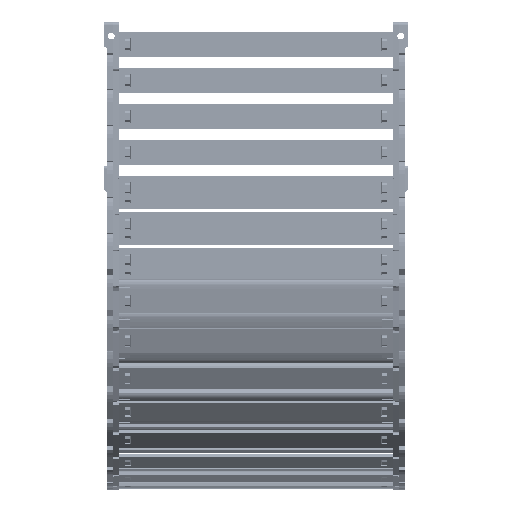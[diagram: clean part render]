
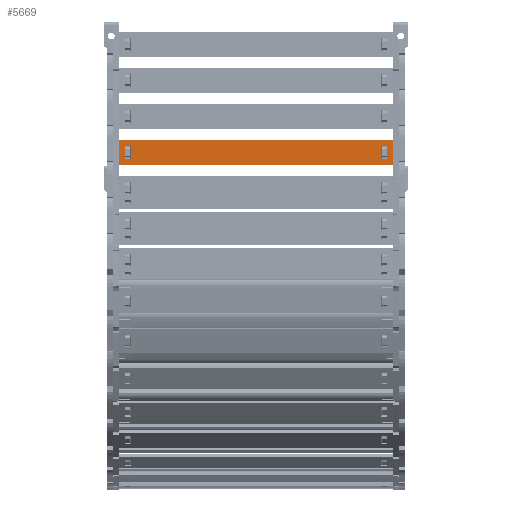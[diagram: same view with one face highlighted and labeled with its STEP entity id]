
A CAD part, left-side view. The second image highlights one B-rep face of the part: STEP entity #5669.
In plain terms, the highlighted planar face has unit normal (-1, 0, 0) as drawn and (0, 1, 0) by its records, which use the part's own axes.
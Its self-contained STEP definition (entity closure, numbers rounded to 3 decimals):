
#5089=DIRECTION('',(0.,0.,1.));
#5090=VECTOR('',#5089,15.8);
#5091=CARTESIAN_POINT('',(161.24,1.5,-7.9));
#5092=LINE('',#5091,#5090);
#5093=DIRECTION('',(-1.,0.,0.));
#5094=VECTOR('',#5093,176.);
#5095=CARTESIAN_POINT('',(161.24,1.5,7.9));
#5096=LINE('',#5095,#5094);
#5097=DIRECTION('',(0.,0.,-1.));
#5098=VECTOR('',#5097,15.8);
#5099=CARTESIAN_POINT('',(-14.76,1.5,7.9));
#5100=LINE('',#5099,#5098);
#5101=DIRECTION('',(1.,0.,0.));
#5102=VECTOR('',#5101,3.648);
#5103=CARTESIAN_POINT('',(153.622,1.5,4.075));
#5104=LINE('',#5103,#5102);
#5105=DIRECTION('',(0.,0.,-1.));
#5106=VECTOR('',#5105,8.15);
#5107=CARTESIAN_POINT('',(157.27,1.5,4.075));
#5108=LINE('',#5107,#5106);
#5109=DIRECTION('',(-1.,0.,0.));
#5110=VECTOR('',#5109,3.648);
#5111=CARTESIAN_POINT('',(157.27,1.5,-4.075));
#5112=LINE('',#5111,#5110);
#5113=DIRECTION('',(0.,0.,-1.));
#5114=VECTOR('',#5113,8.15);
#5115=CARTESIAN_POINT('',(-7.142,1.5,4.075));
#5116=LINE('',#5115,#5114);
#5117=DIRECTION('',(-1.,0.,0.));
#5118=VECTOR('',#5117,3.648);
#5119=CARTESIAN_POINT('',(-7.142,1.5,-4.075));
#5120=LINE('',#5119,#5118);
#5121=DIRECTION('',(0.,0.,1.));
#5122=VECTOR('',#5121,8.15);
#5123=CARTESIAN_POINT('',(-10.79,1.5,-4.075));
#5124=LINE('',#5123,#5122);
#5125=DIRECTION('',(1.,0.,0.));
#5126=VECTOR('',#5125,3.648);
#5127=CARTESIAN_POINT('',(-10.79,1.5,4.075));
#5128=LINE('',#5127,#5126);
#5133=DIRECTION('',(-1.,0.,0.));
#5134=VECTOR('',#5133,176.);
#5135=CARTESIAN_POINT('',(161.24,1.5,-7.9));
#5136=LINE('',#5135,#5134);
#5254=DIRECTION('',(0.,0.,-1.));
#5255=VECTOR('',#5254,8.15);
#5256=CARTESIAN_POINT('',(153.622,1.5,4.075));
#5257=LINE('',#5256,#5255);
#5439=CARTESIAN_POINT('',(157.27,1.5,4.075));
#5440=VERTEX_POINT('',#5439);
#5441=CARTESIAN_POINT('',(153.622,1.5,4.075));
#5442=VERTEX_POINT('',#5441);
#5483=CARTESIAN_POINT('',(153.622,1.5,-4.075));
#5484=VERTEX_POINT('',#5483);
#5485=CARTESIAN_POINT('',(157.27,1.5,-4.075));
#5486=VERTEX_POINT('',#5485);
#5487=CARTESIAN_POINT('',(161.24,1.5,7.9));
#5489=VERTEX_POINT('',#5487);
#5491=CARTESIAN_POINT('',(161.24,1.5,-7.9));
#5492=VERTEX_POINT('',#5491);
#5515=CARTESIAN_POINT('',(-7.142,1.5,4.075));
#5516=CARTESIAN_POINT('',(-7.142,1.5,-4.075));
#5517=VERTEX_POINT('',#5515);
#5518=VERTEX_POINT('',#5516);
#5519=CARTESIAN_POINT('',(-10.79,1.5,-4.075));
#5520=VERTEX_POINT('',#5519);
#5521=CARTESIAN_POINT('',(-10.79,1.5,4.075));
#5522=VERTEX_POINT('',#5521);
#5523=CARTESIAN_POINT('',(-14.76,1.5,7.9));
#5524=VERTEX_POINT('',#5523);
#5527=CARTESIAN_POINT('',(-14.76,1.5,-7.9));
#5528=VERTEX_POINT('',#5527);
#5638=CARTESIAN_POINT('',(192.98,1.5,10.061));
#5639=DIRECTION('',(0.,-1.,0.));
#5640=DIRECTION('',(0.,0.,-1.));
#5641=AXIS2_PLACEMENT_3D('',#5638,#5639,#5640);
#5642=PLANE('',#5641);
#5643=ORIENTED_EDGE('',*,*,#5577,.T.);
#5644=ORIENTED_EDGE('',*,*,#5603,.T.);
#5645=ORIENTED_EDGE('',*,*,#5616,.T.);
#5647=ORIENTED_EDGE('',*,*,#5646,.F.);
#5648=EDGE_LOOP('',(#5643,#5644,#5645,#5647));
#5649=FACE_OUTER_BOUND('',#5648,.F.);
#5651=ORIENTED_EDGE('',*,*,#5650,.F.);
#5652=ORIENTED_EDGE('',*,*,#5540,.T.);
#5654=ORIENTED_EDGE('',*,*,#5653,.T.);
#5656=ORIENTED_EDGE('',*,*,#5655,.T.);
#5657=EDGE_LOOP('',(#5651,#5652,#5654,#5656));
#5658=FACE_BOUND('',#5657,.F.);
#5660=ORIENTED_EDGE('',*,*,#5659,.T.);
#5662=ORIENTED_EDGE('',*,*,#5661,.T.);
#5664=ORIENTED_EDGE('',*,*,#5663,.T.);
#5666=ORIENTED_EDGE('',*,*,#5665,.T.);
#5667=EDGE_LOOP('',(#5660,#5662,#5664,#5666));
#5668=FACE_BOUND('',#5667,.F.);
#5669=ADVANCED_FACE('',(#5649,#5658,#5668),#5642,.F.);
#5540=EDGE_CURVE('',#5442,#5440,#5104,.T.);
#5577=EDGE_CURVE('',#5492,#5489,#5092,.T.);
#5603=EDGE_CURVE('',#5489,#5524,#5096,.T.);
#5616=EDGE_CURVE('',#5524,#5528,#5100,.T.);
#5646=EDGE_CURVE('',#5492,#5528,#5136,.T.);
#5650=EDGE_CURVE('',#5442,#5484,#5257,.T.);
#5653=EDGE_CURVE('',#5440,#5486,#5108,.T.);
#5655=EDGE_CURVE('',#5486,#5484,#5112,.T.);
#5659=EDGE_CURVE('',#5517,#5518,#5116,.T.);
#5661=EDGE_CURVE('',#5518,#5520,#5120,.T.);
#5663=EDGE_CURVE('',#5520,#5522,#5124,.T.);
#5665=EDGE_CURVE('',#5522,#5517,#5128,.T.);
